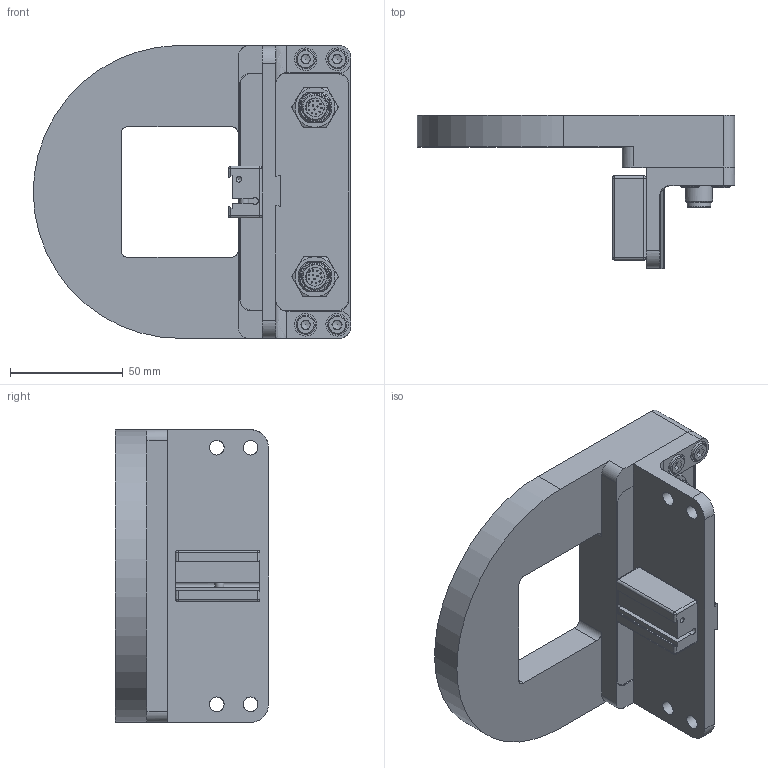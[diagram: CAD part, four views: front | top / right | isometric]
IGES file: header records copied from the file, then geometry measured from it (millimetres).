
Global section: file name: 153-13737_LR-130-RK-24-Q2A12-2L12; native system: Autodesk Inventor 2025; preprocessor: unknown; author: Sandra.Stahl; date: 20260429.080303; units: millimetre
Bounding box: 140.99 x 68 x 130 mm (x, y, z)
Volume: 291420.1 mm3; surface area: 72914.5 mm2
Topology: 1 solids, 8 shells, 500 faces, 1377 edges, 924 vertices
Faces by surface type: bspline 500
